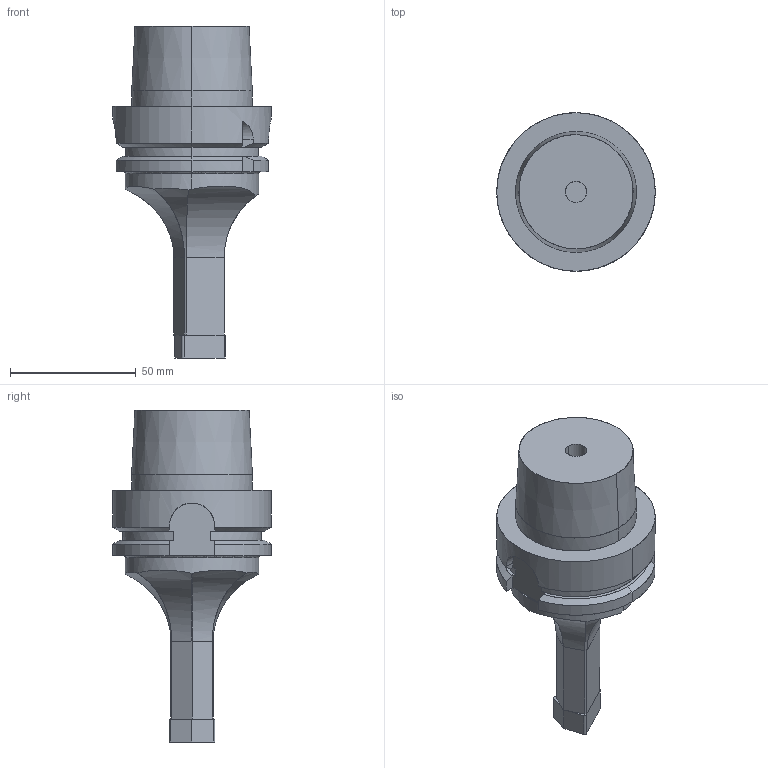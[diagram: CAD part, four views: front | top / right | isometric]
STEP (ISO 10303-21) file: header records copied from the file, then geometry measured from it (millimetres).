
FILE_DESCRIPTION(('OPEN MIND Model'),'2;1');
FILE_NAME('OPEN MIND Shape Model','2021-08-23T11:09:00',('Author'),( 'hyperCAD-S '),'hyperCAD-S STEP processor 6.6','hyperCAD-S 1.0' ,'Unknown');
FILE_SCHEMA(('AUTOMOTIVE_DESIGN { 1 0 10303 214 1 1 1 1 }'));
Length unit declared in the file: millimetre
Products named in the file (87): Product 2; Product 2.1; Product 2.2; Product 2.3; Product 2.4; Product 2.5; Product 2.6; Product 2.7; Product 2.8; Product 2.9; Product 2.10; Product 2.11; Product 2.12; Product 2.13; Product 2.14; Product 2.15; Product 2.16; Product 2.17; Product 2.18; Product 2.19; Product 2.20; Product 2.21; Product 2.22; Product 2.23; Product 2.24; Product 2.25; Product 2.26; Product 2.27; Product 2.28; Product 2.29; Product 2.30; Product 2.31; Product 2.32; Product 2.33; Product 2.34; Product 2.35; Product 2.36; Product 2.37; Product 2.38; Product 2.39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
Assembly tree (86 placements, depth 2):
  Product 2
    Product 2.1
    Product 2.2
    Product 2.3
    Product 2.4
    Product 2.5
    Product 2.6
    Product 2.7
    Product 2.8
    Product 2.9
    Product 2.10
    Product 2.11
    Product 2.12
    Product 2.13
    Product 2.14
    Product 2.15
    Product 2.16
    Product 2.17
    Product 2.18
    Product 2.19
    Product 2.20
    Product 2.21
    Product 2.22
    Product 2.23
    Product 2.24
    Product 2.25
    Product 2.26
    Product 2.27
    Product 2.28
    Product 2.29
    Product 2.30
    Product 2.31
    Product 2.32
    Product 2.33
    Product 2.34
    Product 2.35
    Product 2.36
    Product 2.37
    Product 2.38
    Product 2.39
    Product 2.40
    Product 2.41
    Product 2.42
    Product 2.43
    Product 2.44
    Product 2.45
    Product 2.46
    Product 2.47
    Product 2.48
    Product 2.49
    Product 2.50
    Product 2.51
    Product 2.52
    Product 2.53
    Product 2.54
    Product 2.55
    Product 2.56
    Product 2.57
    Product 2.58
    Product 2.59
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Bounding box: 63 x 63 x 132 mm (x, y, z)
Volume: 1776.5 mm3; surface area: 23206.5 mm2
Topology: 1 solids, 78 shells, 86 faces, 431 edges, 432 vertices
Faces by surface type: plane 38, cylinder 32, revolution 16
Entity records: 11689 total; most frequent: CARTESIAN_POINT 5698, B_SPLINE_CURVE_WITH_KNOTS 726, ORIENTED_EDGE 445, PCURVE 445, DEFINITIONAL_REPRESENTATION 445, EDGE_CURVE 424, SURFACE_CURVE 424, VERTEX_POINT 417
